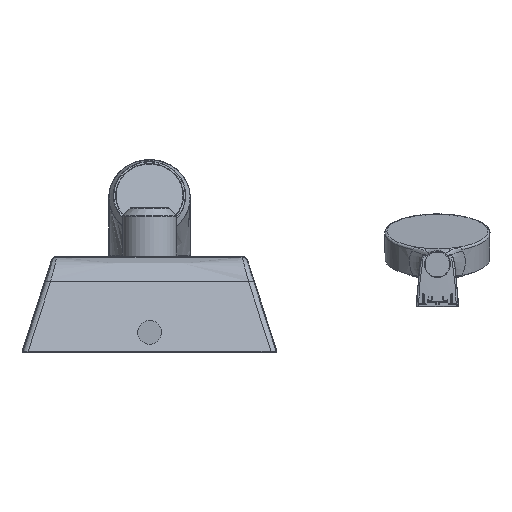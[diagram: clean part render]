
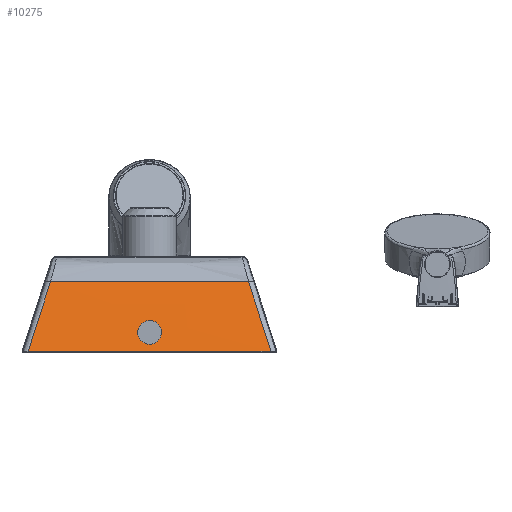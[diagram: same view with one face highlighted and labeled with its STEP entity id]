
A CAD part, front view. The second image highlights one B-rep face of the part: STEP entity #10275.
In plain terms, the highlighted free-form (B-spline) face has degree [3, 3] with [4, 4] control points.
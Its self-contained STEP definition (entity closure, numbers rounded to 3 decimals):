
#656 = FACE_OUTER_BOUND ( 'NONE', #51274, .T. ) ;
#697 = CARTESIAN_POINT ( 'NONE',  ( 91.266, -23.175, 0.793 ) ) ;
#948 = CARTESIAN_POINT ( 'NONE',  ( 29.763, -2.008, 64.81 ) ) ;
#1251 = CARTESIAN_POINT ( 'NONE',  ( -32.009, -9.054, 43.477 ) ) ;
#1981 = EDGE_CURVE ( 'NONE', #7240, #4734, #16941, .T. ) ;
#2537 = CARTESIAN_POINT ( 'NONE',  ( -89.284, -2.089, 63.595 ) ) ;
#4734 = VERTEX_POINT ( 'NONE', #21456 ) ;
#5245 = CARTESIAN_POINT ( 'NONE',  ( 102.782, -16.144, 21.717 ) ) ;
#5504 = CARTESIAN_POINT ( 'NONE',  ( 34.26, -16.114, 22.132 ) ) ;
#6100 = CARTESIAN_POINT ( 'NONE',  ( 102.782, -16.144, 21.717 ) ) ;
#6330 = EDGE_CURVE ( 'NONE', #4734, #51339, #56330, .T. ) ;
#7240 = VERTEX_POINT ( 'NONE', #52862 ) ;
#9476 = ORIENTED_EDGE ( 'NONE', *, *, #6330, .T. ) ;
#10275 = ADVANCED_FACE ( 'NONE', ( #656 ), #36317, .T. ) ;
#10354 = CARTESIAN_POINT ( 'NONE',  ( -96.035, -9.11, 42.661 ) ) ;
#12168 = ORIENTED_EDGE ( 'NONE', *, *, #1981, .T. ) ;
#14040 = CARTESIAN_POINT ( 'NONE',  ( -109.52, -23.175, 0.793 ) ) ;
#14593 = CARTESIAN_POINT ( 'NONE',  ( 36.507, -23.175, 0.793 ) ) ;
#14884 = CARTESIAN_POINT ( 'NONE',  ( 32.013, -9.057, 43.471 ) ) ;
#15177 = CARTESIAN_POINT ( 'NONE',  ( -102.779, -16.141, 21.727 ) ) ;
#16452 = CARTESIAN_POINT ( 'NONE',  ( 29.763, -2.008, 64.81 ) ) ;
#16941 = B_SPLINE_CURVE_WITH_KNOTS ( 'NONE', 3,
 ( #50726, #5245, #31969, #18560 ),
 .UNSPECIFIED., .F., .F.,
 ( 4, 4 ),
 ( 0., 1. ),
 .UNSPECIFIED. ) ;
#17977 = CARTESIAN_POINT ( 'NONE',  ( 54.76, -23.175, 0.793 ) ) ;
#18560 = CARTESIAN_POINT ( 'NONE',  ( 89.294, -2.098, 63.566 ) ) ;
#19103 = CARTESIAN_POINT ( 'NONE',  ( -29.757, -2.004, 64.82 ) ) ;
#20308 = CARTESIAN_POINT ( 'NONE',  ( -34.258, -16.112, 22.135 ) ) ;
#20393 = CARTESIAN_POINT ( 'NONE',  ( -29.757, -2.004, 64.82 ) ) ;
#21456 = CARTESIAN_POINT ( 'NONE',  ( 89.294, -2.098, 63.566 ) ) ;
#25256 = CARTESIAN_POINT ( 'NONE',  ( 89.294, -2.098, 63.566 ) ) ;
#25836 = CARTESIAN_POINT ( 'NONE',  ( -89.284, -2.089, 63.595 ) ) ;
#26894 = B_SPLINE_CURVE_WITH_KNOTS ( 'NONE', 3,
 ( #14040, #50725, #51635, #42219, #17977, #697, #51038 ),
 .UNSPECIFIED., .F., .F.,
 ( 4, 1, 1, 1, 4 ),
 ( 0.093, 0.296, 0.5, 0.704, 0.907 ),
 .UNSPECIFIED. ) ;
#28547 = CARTESIAN_POINT ( 'NONE',  ( 89.294, -2.098, 63.566 ) ) ;
#31224 = CARTESIAN_POINT ( 'NONE',  ( -96.035, -9.11, 42.661 ) ) ;
#31647 = ORIENTED_EDGE ( 'NONE', *, *, #56726, .T. ) ;
#31969 = CARTESIAN_POINT ( 'NONE',  ( 96.041, -9.117, 42.641 ) ) ;
#33404 = CARTESIAN_POINT ( 'NONE',  ( 109.52, -23.175, 0.793 ) ) ;
#34418 = VERTEX_POINT ( 'NONE', #52501 ) ;
#36317 = B_SPLINE_SURFACE_WITH_KNOTS ( 'NONE', 3, 3, ( 
 ( #38234, #15177, #10354, #42764 ),
 ( #42475, #20308, #1251, #19103 ),
 ( #14593, #5504, #14884, #948 ),
 ( #33404, #6100, #56723, #28547 ) ),
 .UNSPECIFIED., .F., .F., .F.,
 ( 4, 4 ),
 ( 4, 4 ),
 ( 0., 1. ),
 ( 0., 1. ),
 .UNSPECIFIED. ) ;
#38234 = CARTESIAN_POINT ( 'NONE',  ( -109.52, -23.175, 0.793 ) ) ;
#39985 = CARTESIAN_POINT ( 'NONE',  ( -109.52, -23.175, 0.793 ) ) ;
#40416 = B_SPLINE_CURVE_WITH_KNOTS ( 'NONE', 3,
 ( #58175, #31224, #53945, #39985 ),
 .UNSPECIFIED., .F., .F.,
 ( 4, 4 ),
 ( 0., 1. ),
 .UNSPECIFIED. ) ;
#42219 = CARTESIAN_POINT ( 'NONE',  ( 0., -23.175, 0.793 ) ) ;
#42475 = CARTESIAN_POINT ( 'NONE',  ( -36.507, -23.175, 0.793 ) ) ;
#42764 = CARTESIAN_POINT ( 'NONE',  ( -89.284, -2.089, 63.595 ) ) ;
#47819 = EDGE_CURVE ( 'NONE', #34418, #7240, #26894, .T. ) ;
#50726 = CARTESIAN_POINT ( 'NONE',  ( 109.52, -23.175, 0.793 ) ) ;
#50725 = CARTESIAN_POINT ( 'NONE',  ( -91.266, -23.175, 0.793 ) ) ;
#51038 = CARTESIAN_POINT ( 'NONE',  ( 109.52, -23.175, 0.793 ) ) ;
#51274 = EDGE_LOOP ( 'NONE', ( #54391, #12168, #9476, #31647 ) ) ;
#51339 = VERTEX_POINT ( 'NONE', #25836 ) ;
#51635 = CARTESIAN_POINT ( 'NONE',  ( -54.76, -23.175, 0.793 ) ) ;
#52501 = CARTESIAN_POINT ( 'NONE',  ( -109.52, -23.175, 0.793 ) ) ;
#52862 = CARTESIAN_POINT ( 'NONE',  ( 109.52, -23.175, 0.793 ) ) ;
#53945 = CARTESIAN_POINT ( 'NONE',  ( -102.779, -16.141, 21.727 ) ) ;
#54391 = ORIENTED_EDGE ( 'NONE', *, *, #47819, .T. ) ;
#56330 = B_SPLINE_CURVE_WITH_KNOTS ( 'NONE', 3,
 ( #25256, #16452, #20393, #2537 ),
 .UNSPECIFIED., .F., .F.,
 ( 4, 4 ),
 ( 0., 1. ),
 .UNSPECIFIED. ) ;
#56723 = CARTESIAN_POINT ( 'NONE',  ( 96.041, -9.117, 42.641 ) ) ;
#56726 = EDGE_CURVE ( 'NONE', #51339, #34418, #40416, .T. ) ;
#58175 = CARTESIAN_POINT ( 'NONE',  ( -89.284, -2.089, 63.595 ) ) ;
